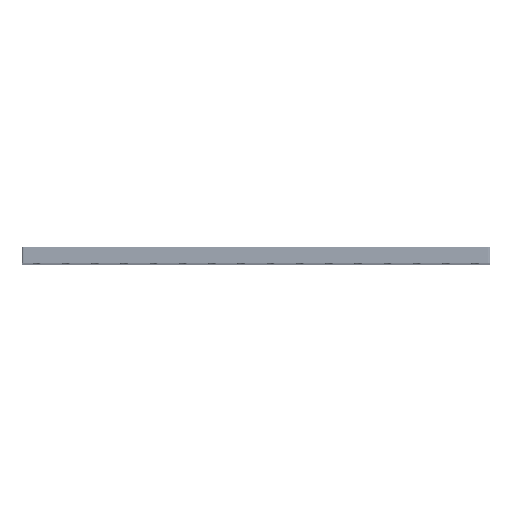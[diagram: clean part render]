
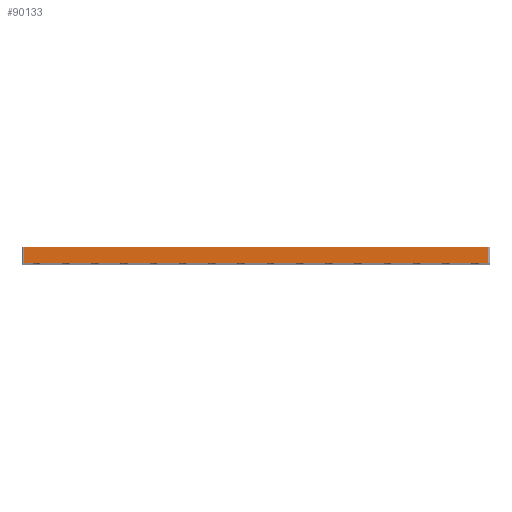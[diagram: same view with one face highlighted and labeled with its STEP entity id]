
A CAD part, top view. The second image highlights one B-rep face of the part: STEP entity #90133.
In plain terms, the highlighted planar face has unit normal (0, 0, 1).
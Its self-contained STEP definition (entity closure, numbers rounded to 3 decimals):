
#32954=CARTESIAN_POINT('',(198.5,0.3,400.));
#32956=CARTESIAN_POINT('',(-198.5,0.3,400.));
#33041=CARTESIAN_POINT('',(-198.5,13.7,400.));
#33043=DIRECTION('',(0.,-1.,0.));
#33044=VECTOR('',#33043,13.4);
#33045=CARTESIAN_POINT('',(198.5,13.7,400.));
#33046=LINE('',#33045,#33044);
#33047=DIRECTION('',(-1.,0.,0.));
#33048=VECTOR('',#33047,397.);
#33049=CARTESIAN_POINT('',(198.5,0.3,400.));
#33050=LINE('',#33049,#33048);
#33051=DIRECTION('',(0.,-1.,0.));
#33052=VECTOR('',#33051,13.4);
#33053=CARTESIAN_POINT('',(-198.5,13.7,400.));
#33054=LINE('',#33053,#33052);
#33055=DIRECTION('',(1.,0.,0.));
#33056=VECTOR('',#33055,397.);
#33057=CARTESIAN_POINT('',(-198.5,13.7,400.));
#33058=LINE('',#33057,#33056);
#41559=VERTEX_POINT('',#32954);
#41560=CARTESIAN_POINT('',(198.5,13.7,400.));
#41561=VERTEX_POINT('',#41560);
#41565=VERTEX_POINT('',#32956);
#41573=VERTEX_POINT('',#33041);
#90122=CARTESIAN_POINT('',(-200.,0.,400.));
#90123=DIRECTION('',(0.,0.,1.));
#90124=DIRECTION('',(1.,0.,0.));
#90125=AXIS2_PLACEMENT_3D('',#90122,#90123,#90124);
#90126=PLANE('',#90125);
#90127=ORIENTED_EDGE('',*,*,#89963,.T.);
#90128=ORIENTED_EDGE('',*,*,#89985,.T.);
#90129=ORIENTED_EDGE('',*,*,#90005,.F.);
#90130=ORIENTED_EDGE('',*,*,#90115,.T.);
#90131=EDGE_LOOP('',(#90127,#90128,#90129,#90130));
#90132=FACE_OUTER_BOUND('',#90131,.F.);
#90133=ADVANCED_FACE('',(#90132),#90126,.T.);
#89963=EDGE_CURVE('',#41561,#41559,#33046,.T.);
#89985=EDGE_CURVE('',#41559,#41565,#33050,.T.);
#90005=EDGE_CURVE('',#41573,#41565,#33054,.T.);
#90115=EDGE_CURVE('',#41573,#41561,#33058,.T.);
